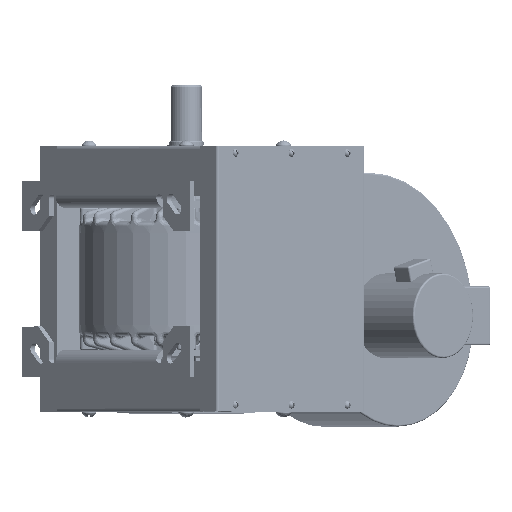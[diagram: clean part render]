
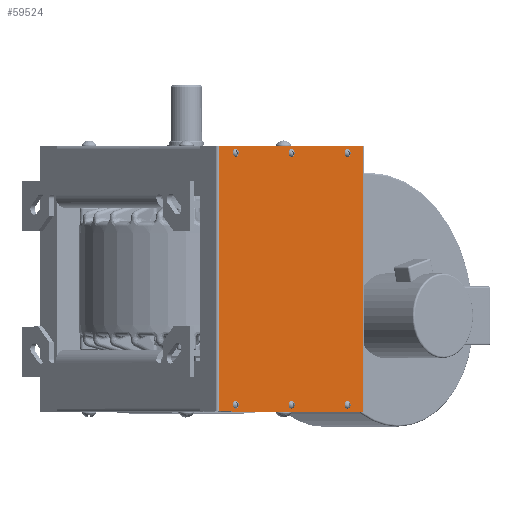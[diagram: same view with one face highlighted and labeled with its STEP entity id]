
A CAD part, top view. The second image highlights one B-rep face of the part: STEP entity #59524.
In plain terms, the highlighted planar face has unit normal (0.707, 0, 0.707).
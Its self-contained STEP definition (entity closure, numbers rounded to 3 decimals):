
#363=FACE_BOUND('',#13397,.T.);
#364=FACE_BOUND('',#13398,.T.);
#365=FACE_BOUND('',#13399,.T.);
#366=FACE_BOUND('',#13400,.T.);
#367=FACE_BOUND('',#13401,.T.);
#368=FACE_BOUND('',#13402,.T.);
#2117=PLANE('',#65625);
#9452=FACE_OUTER_BOUND('',#13396,.T.);
#13396=EDGE_LOOP('',(#52880,#52881,#52882,#52883));
#13397=EDGE_LOOP('',(#52884));
#13398=EDGE_LOOP('',(#52885));
#13399=EDGE_LOOP('',(#52886));
#13400=EDGE_LOOP('',(#52887));
#13401=EDGE_LOOP('',(#52888));
#13402=EDGE_LOOP('',(#52889));
#16030=LINE('',#166138,#18463);
#16031=LINE('',#166140,#18464);
#16032=LINE('',#166142,#18465);
#16033=LINE('',#166143,#18466);
#18463=VECTOR('',#79846,39.37);
#18464=VECTOR('',#79847,39.37);
#18465=VECTOR('',#79848,39.37);
#18466=VECTOR('',#79849,39.37);
#22258=CIRCLE('',#65608,0.149);
#22267=CIRCLE('',#65626,0.149);
#22268=CIRCLE('',#65627,0.149);
#22269=CIRCLE('',#65628,0.149);
#22270=CIRCLE('',#65629,0.149);
#22271=CIRCLE('',#65630,0.149);
#27726=VERTEX_POINT('',#166105);
#27734=VERTEX_POINT('',#166136);
#27735=VERTEX_POINT('',#166137);
#27736=VERTEX_POINT('',#166139);
#27737=VERTEX_POINT('',#166141);
#27738=VERTEX_POINT('',#166144);
#27739=VERTEX_POINT('',#166146);
#27740=VERTEX_POINT('',#166148);
#27741=VERTEX_POINT('',#166150);
#27742=VERTEX_POINT('',#166152);
#36191=EDGE_CURVE('',#27726,#27726,#22258,.T.);
#36204=EDGE_CURVE('',#27734,#27735,#16030,.T.);
#36205=EDGE_CURVE('',#27735,#27736,#16031,.T.);
#36206=EDGE_CURVE('',#27737,#27736,#16032,.T.);
#36207=EDGE_CURVE('',#27737,#27734,#16033,.T.);
#36208=EDGE_CURVE('',#27738,#27738,#22267,.T.);
#36209=EDGE_CURVE('',#27739,#27739,#22268,.T.);
#36210=EDGE_CURVE('',#27740,#27740,#22269,.T.);
#36211=EDGE_CURVE('',#27741,#27741,#22270,.T.);
#36212=EDGE_CURVE('',#27742,#27742,#22271,.T.);
#52880=ORIENTED_EDGE('',*,*,#36204,.T.);
#52881=ORIENTED_EDGE('',*,*,#36205,.T.);
#52882=ORIENTED_EDGE('',*,*,#36206,.F.);
#52883=ORIENTED_EDGE('',*,*,#36207,.T.);
#52884=ORIENTED_EDGE('',*,*,#36208,.F.);
#52885=ORIENTED_EDGE('',*,*,#36209,.F.);
#52886=ORIENTED_EDGE('',*,*,#36210,.F.);
#52887=ORIENTED_EDGE('',*,*,#36211,.F.);
#52888=ORIENTED_EDGE('',*,*,#36212,.F.);
#52889=ORIENTED_EDGE('',*,*,#36191,.F.);
#59524=ADVANCED_FACE('',(#9452,#363,#364,#365,#366,#367,#368),#2117,.F.);
#65608=AXIS2_PLACEMENT_3D('',#166107,#79806,#79807);
#65625=AXIS2_PLACEMENT_3D('',#166135,#79844,#79845);
#65626=AXIS2_PLACEMENT_3D('',#166145,#79850,#79851);
#65627=AXIS2_PLACEMENT_3D('',#166147,#79852,#79853);
#65628=AXIS2_PLACEMENT_3D('',#166149,#79854,#79855);
#65629=AXIS2_PLACEMENT_3D('',#166151,#79856,#79857);
#65630=AXIS2_PLACEMENT_3D('',#166153,#79858,#79859);
#79806=DIRECTION('center_axis',(0.707,0.,
0.707));
#79807=DIRECTION('ref_axis',(0.707,0.,-0.707));
#79844=DIRECTION('center_axis',(-0.707,0.,
-0.707));
#79845=DIRECTION('ref_axis',(-0.707,0.,0.707));
#79846=DIRECTION('',(0.,-1.,0.));
#79847=DIRECTION('',(0.707,0.,-0.707));
#79848=DIRECTION('',(0.,-1.,0.));
#79849=DIRECTION('',(-0.707,0.,0.707));
#79850=DIRECTION('center_axis',(0.707,0.,
0.707));
#79851=DIRECTION('ref_axis',(0.707,0.,-0.707));
#79852=DIRECTION('center_axis',(0.707,0.,
0.707));
#79853=DIRECTION('ref_axis',(0.707,0.,-0.707));
#79854=DIRECTION('center_axis',(0.707,0.,
0.707));
#79855=DIRECTION('ref_axis',(0.707,0.,-0.707));
#79856=DIRECTION('center_axis',(0.707,0.,
0.707));
#79857=DIRECTION('ref_axis',(0.707,0.,-0.707));
#79858=DIRECTION('center_axis',(0.707,0.,
0.707));
#79859=DIRECTION('ref_axis',(0.707,0.,-0.707));
#166105=CARTESIAN_POINT('',(1.848,6.727,5.221));
#166107=CARTESIAN_POINT('Origin',(1.943,6.791,5.127));
#166135=CARTESIAN_POINT('Origin',(7.07,1.813,0.));
#166136=CARTESIAN_POINT('',(1.305,7.063,5.764));
#166137=CARTESIAN_POINT('',(1.305,-3.437,5.764));
#166138=CARTESIAN_POINT('',(1.305,7.063,5.764));
#166139=CARTESIAN_POINT('',(7.001,-3.437,0.069));
#166140=CARTESIAN_POINT('',(7.07,-3.437,0.));
#166141=CARTESIAN_POINT('',(7.001,7.063,0.069));
#166142=CARTESIAN_POINT('',(7.001,-3.437,0.069));
#166143=CARTESIAN_POINT('',(7.07,7.063,0.));
#166144=CARTESIAN_POINT('',(1.843,-3.212,5.226));
#166145=CARTESIAN_POINT('Origin',(1.943,-3.165,5.127));
#166146=CARTESIAN_POINT('',(6.258,-3.153,0.812));
#166147=CARTESIAN_POINT('Origin',(6.363,-3.165,0.707));
#166148=CARTESIAN_POINT('',(6.272,6.715,0.797));
#166149=CARTESIAN_POINT('Origin',(6.363,6.791,0.707));
#166150=CARTESIAN_POINT('',(4.062,6.717,3.008));
#166151=CARTESIAN_POINT('Origin',(4.153,6.791,2.917));
#166152=CARTESIAN_POINT('',(4.049,-3.186,3.021));
#166153=CARTESIAN_POINT('Origin',(4.153,-3.165,2.917));
